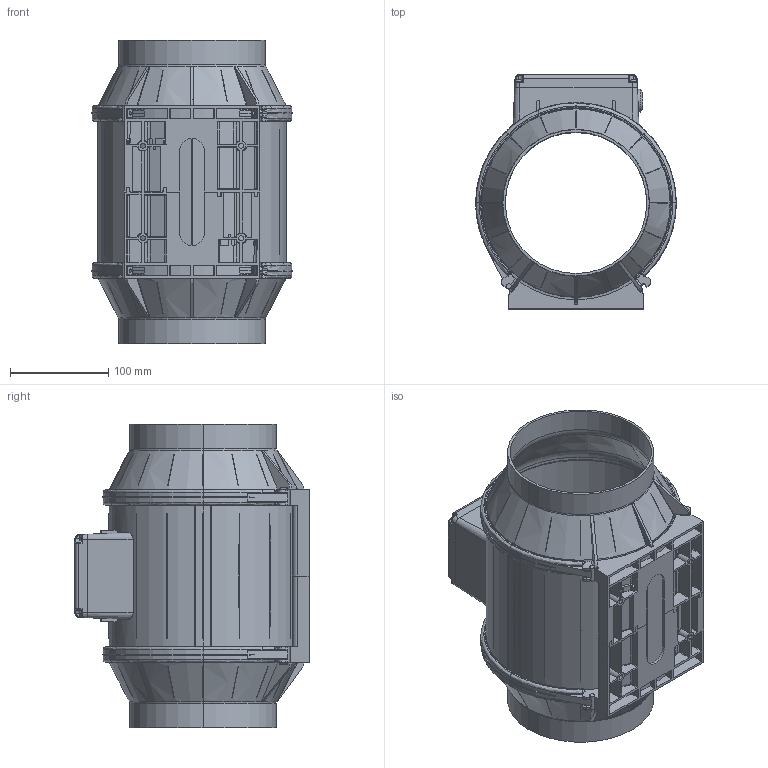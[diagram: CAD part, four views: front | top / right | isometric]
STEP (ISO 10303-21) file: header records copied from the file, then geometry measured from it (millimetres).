
FILE_DESCRIPTION (( 'STEP AP203' ), '1' );
FILE_NAME ('126547-02_EM150LE2M01.STEP', '2013-10-22T13:06:37', ( '' ), ( '' ), 'SwSTEP 2.0', 'SolidWorks 2012', '' );
FILE_SCHEMA (( 'CONFIG_CONTROL_DESIGN' ));
Length unit declared in the file: millimetre
Products named in the file (1): 126547-02_EM150LE2M01
Bounding box: 204 x 238.55 x 309 mm (x, y, z)
Surface area: 494568.2 mm2 (no closed solid volume)
Topology: 0 solids, 38 shells, 1319 faces, 4895 edges, 3445 vertices
Faces by surface type: plane 476, cylinder 436, torus 176, bspline 145, cone 76, sphere 10
Entity records: 74133 total; most frequent: CARTESIAN_POINT 36605, ORIENTED_EDGE 7509, DIRECTION 7078, EDGE_CURVE 4887, VERTEX_POINT 3443, AXIS2_PLACEMENT_3D 2595, LINE 1888, VECTOR 1888
